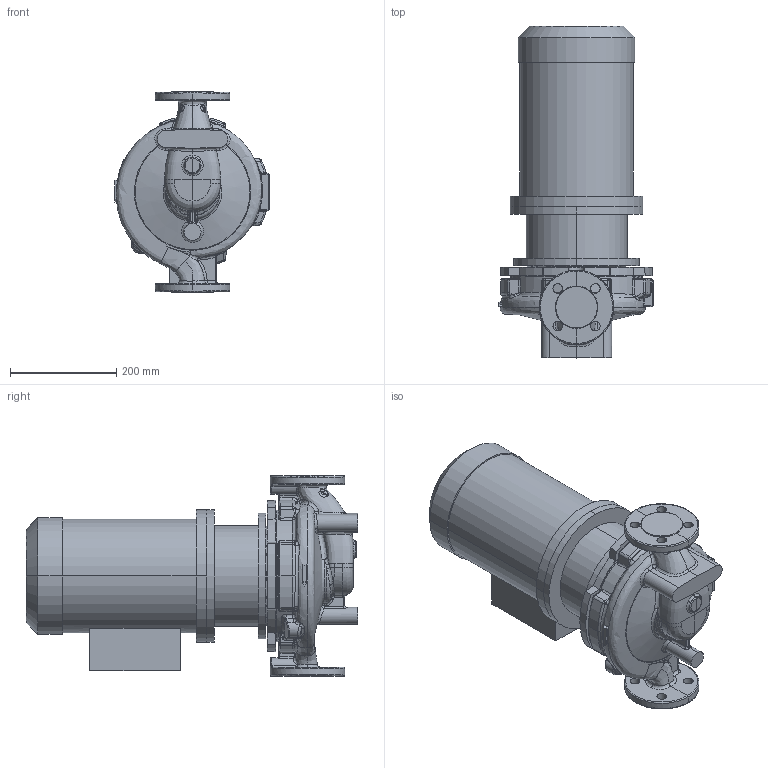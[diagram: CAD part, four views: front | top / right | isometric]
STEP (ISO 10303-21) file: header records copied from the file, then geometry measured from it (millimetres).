
FILE_DESCRIPTION (( 'STEP AP214' ), '1' );
FILE_NAME ('KRL 32-200-2-4.STEP', '2026-03-17T09:27:18', ( '' ), ( '' ), 'SwSTEP 2.0', 'SolidWorks 2016', '' );
FILE_SCHEMA (( 'AUTOMOTIVE_DESIGN' ));
Length unit declared in the file: millimetre
Products named in the file (1): KRL 32-200-2-4
Bounding box: 290 x 624.3 x 380 mm (x, y, z)
Volume: 24833843.4 mm3; surface area: 1053416.7 mm2
Topology: 4 solids, 4 shells, 707 faces, 1709 edges, 1006 vertices
Faces by surface type: bspline 336, cylinder 155, plane 109, cone 45, torus 35, sphere 27
Entity records: 60736 total; most frequent: CARTESIAN_POINT 39439, ORIENTED_EDGE 3368, DIRECTION 2082, EDGE_CURVE 1684, VERTEX_POINT 1006, AXIS2_PLACEMENT_3D 899, EDGE_LOOP 744, B_SPLINE_CURVE_WITH_KNOTS 728
